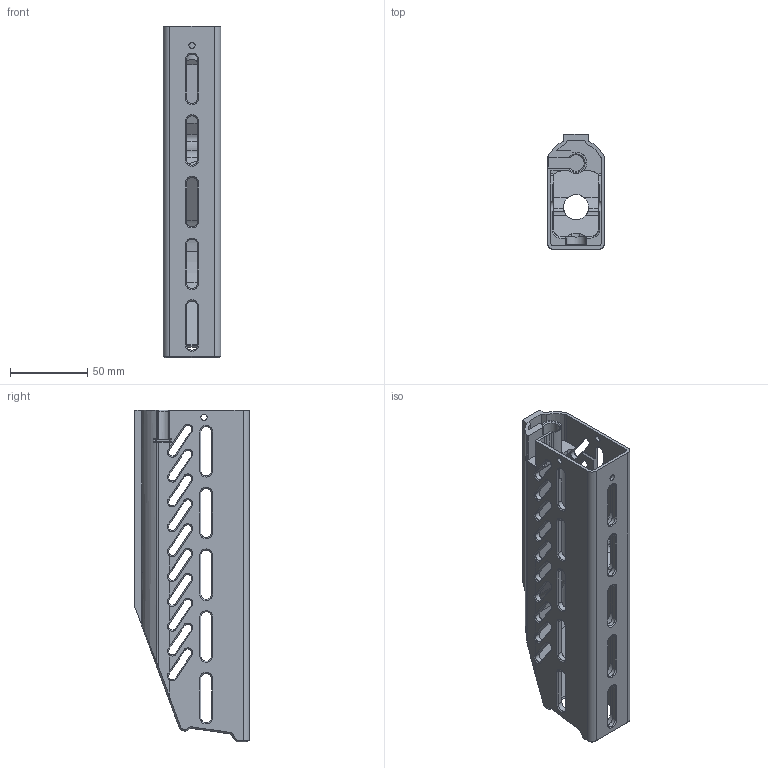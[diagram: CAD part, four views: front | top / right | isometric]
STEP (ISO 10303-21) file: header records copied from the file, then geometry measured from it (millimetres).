
FILE_DESCRIPTION(/* description */ (''),/* implementation_level */ '2;1');
FILE_NAME(/* name */ 'D:/Pew Pews/FGC-9_MkII_Stingray_Edition/Stingray Edition/.step files/1 - Upper/Hand Guard.step',/* time_stamp */ '2022-05-11T21:20:06-06:00',/* author */ (''),/* organization */ (''),/* preprocessor_version */ 'ST-DEVELOPER v18.1',/* originating_system */ 'Autodesk Translation Framework v10.10.0.1391',/* authorisation */ '');
FILE_SCHEMA (('AUTOMOTIVE_DESIGN { 1 0 10303 214 3 1 1 }'));
Length unit declared in the file: millimetre
Products named in the file (1): Vented Handguard.
Bounding box: 37.08 x 74.44 x 215 mm (x, y, z)
Volume: 178705.9 mm3; surface area: 81837.5 mm2
Topology: 1 solids, 1 shells, 608 faces, 1765 edges, 1126 vertices
Faces by surface type: plane 313, cylinder 148, cone 77, bspline 66, torus 4
Full cylindrical faces by diameter (mm): 3 x4, 4 x3, 4.5 x3, 4.748 x1, 5 x1, 16.3 x1
Entity records: 21820 total; most frequent: CARTESIAN_POINT 5924, ORIENTED_EDGE 3530, DIRECTION 3047, EDGE_CURVE 1765, LINE 1141, VECTOR 1141, VERTEX_POINT 1126, AXIS2_PLACEMENT_3D 953
